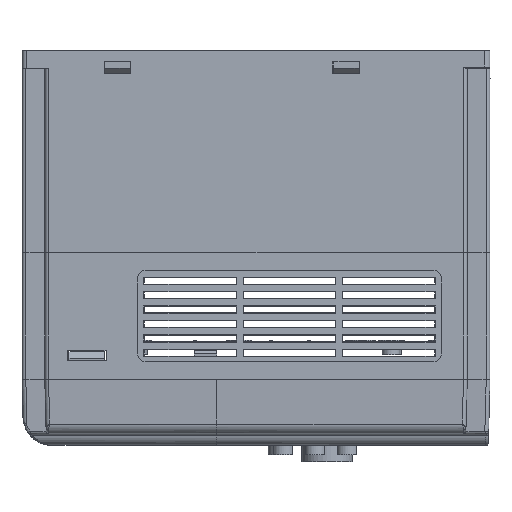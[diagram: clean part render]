
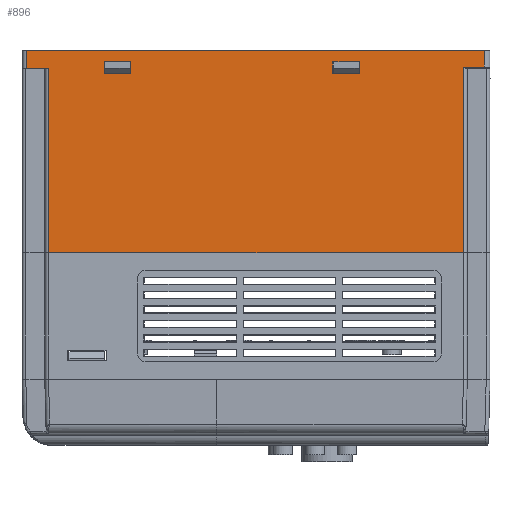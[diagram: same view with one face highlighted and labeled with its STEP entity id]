
A CAD part, left-side view. The second image highlights one B-rep face of the part: STEP entity #896.
In plain terms, the highlighted planar face has unit normal (-1, 0, 0).
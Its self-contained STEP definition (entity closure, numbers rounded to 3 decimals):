
#896=ADVANCED_FACE('',(#13870,#13872,#13874),#13876,.F.);
#13870=FACE_BOUND('',#13871,.T.);
#13871=EDGE_LOOP('',(#48004,#48005,#48006,#48007,#48008,#48009,#48010,#48011));
#13872=FACE_BOUND('',#13873,.T.);
#13873=EDGE_LOOP('',(#48012,#48013,#48014,#48015));
#13874=FACE_BOUND('',#13875,.T.);
#13875=EDGE_LOOP('',(#48016,#48017,#48018,#48019));
#13876=PLANE('',#13877);
#13877=AXIS2_PLACEMENT_3D('',#13878,#13879,#13880);
#13878=CARTESIAN_POINT('',(-58.939,-81.945,180.94));
#13879=DIRECTION('',(1.,0.,0.));
#13880=DIRECTION('',(0.,-1.,0.));
#48004=ORIENTED_EDGE('',*,*,#69001,.T.);
#48005=ORIENTED_EDGE('',*,*,#69000,.T.);
#48006=ORIENTED_EDGE('',*,*,#69002,.F.);
#48007=ORIENTED_EDGE('',*,*,#69003,.T.);
#48008=ORIENTED_EDGE('',*,*,#69004,.F.);
#48009=ORIENTED_EDGE('',*,*,#69005,.F.);
#48010=ORIENTED_EDGE('',*,*,#68920,.F.);
#48011=ORIENTED_EDGE('',*,*,#69006,.T.);
#48012=ORIENTED_EDGE('',*,*,#69007,.T.);
#48013=ORIENTED_EDGE('',*,*,#69008,.T.);
#48014=ORIENTED_EDGE('',*,*,#69009,.T.);
#48015=ORIENTED_EDGE('',*,*,#69010,.T.);
#48016=ORIENTED_EDGE('',*,*,#69011,.T.);
#48017=ORIENTED_EDGE('',*,*,#69012,.T.);
#48018=ORIENTED_EDGE('',*,*,#69013,.T.);
#48019=ORIENTED_EDGE('',*,*,#69014,.T.);
#68920=EDGE_CURVE('',#79562,#79564,#79565,.T.);
#69000=EDGE_CURVE('',#79710,#79712,#79714,.T.);
#69001=EDGE_CURVE('',#79715,#79710,#79716,.T.);
#69002=EDGE_CURVE('',#79717,#79712,#79718,.T.);
#69003=EDGE_CURVE('',#79717,#79719,#79720,.T.);
#69004=EDGE_CURVE('',#79721,#79719,#79722,.T.);
#69005=EDGE_CURVE('',#79564,#79721,#79723,.T.);
#69006=EDGE_CURVE('',#79562,#79715,#79724,.T.);
#69007=EDGE_CURVE('',#79725,#79726,#79727,.T.);
#69008=EDGE_CURVE('',#79726,#79728,#79729,.T.);
#69009=EDGE_CURVE('',#79728,#79730,#79731,.T.);
#69010=EDGE_CURVE('',#79730,#79725,#79732,.T.);
#69011=EDGE_CURVE('',#79733,#79734,#79735,.T.);
#69012=EDGE_CURVE('',#79734,#79736,#79737,.T.);
#69013=EDGE_CURVE('',#79736,#79738,#79739,.T.);
#69014=EDGE_CURVE('',#79738,#79733,#79740,.T.);
#79562=VERTEX_POINT('',#97427);
#79564=VERTEX_POINT('',#97432);
#79565=LINE('',#97433,#97434);
#79710=VERTEX_POINT('',#97791);
#79712=VERTEX_POINT('',#97796);
#79714=LINE('',#97801,#97802);
#79715=VERTEX_POINT('',#97804);
#79716=LINE('',#97805,#97806);
#79717=VERTEX_POINT('',#97808);
#79718=LINE('',#97809,#97810);
#79719=VERTEX_POINT('',#97812);
#79720=LINE('',#97813,#97814);
#79721=VERTEX_POINT('',#97816);
#79722=LINE('',#97817,#97818);
#79723=LINE('',#97820,#97821);
#79724=LINE('',#97823,#97824);
#79725=VERTEX_POINT('',#97826);
#79726=VERTEX_POINT('',#97827);
#79727=LINE('',#97828,#97829);
#79728=VERTEX_POINT('',#97831);
#79729=LINE('',#97832,#97833);
#79730=VERTEX_POINT('',#97835);
#79731=LINE('',#97836,#97837);
#79732=LINE('',#97839,#97840);
#79733=VERTEX_POINT('',#97842);
#79734=VERTEX_POINT('',#97843);
#79735=LINE('',#97844,#97845);
#79736=VERTEX_POINT('',#97847);
#79737=LINE('',#97848,#97849);
#79738=VERTEX_POINT('',#97851);
#79739=LINE('',#97852,#97853);
#79740=LINE('',#97855,#97856);
#97427=CARTESIAN_POINT('',(-58.939,-81.945,35.94));
#97432=CARTESIAN_POINT('',(-58.939,81.945,35.94));
#97433=CARTESIAN_POINT('',(-58.939,-81.945,35.94));
#97434=VECTOR('',#97435,1.);
#97435=DIRECTION('',(0.,1.,0.));
#97791=CARTESIAN_POINT('',(-58.939,-90.245,109.24));
#97796=CARTESIAN_POINT('',(-58.939,-90.245,115.94));
#97801=CARTESIAN_POINT('',(-58.939,-90.245,109.24));
#97802=VECTOR('',#97803,1.);
#97803=DIRECTION('',(0.,0.,1.));
#97804=CARTESIAN_POINT('',(-58.939,-81.945,109.24));
#97805=CARTESIAN_POINT('',(-58.939,-81.945,109.24));
#97806=VECTOR('',#97807,1.);
#97807=DIRECTION('',(0.,-1.,0.));
#97808=CARTESIAN_POINT('',(-58.939,90.745,115.94));
#97809=CARTESIAN_POINT('',(-58.939,90.745,115.94));
#97810=VECTOR('',#97811,1.);
#97811=DIRECTION('',(0.,-1.,0.));
#97812=CARTESIAN_POINT('',(-58.939,90.745,108.74));
#97813=CARTESIAN_POINT('',(-58.939,90.745,115.94));
#97814=VECTOR('',#97815,1.);
#97815=DIRECTION('',(0.,0.,-1.));
#97816=CARTESIAN_POINT('',(-58.939,81.945,108.74));
#97817=CARTESIAN_POINT('',(-58.939,81.945,108.74));
#97818=VECTOR('',#97819,1.);
#97819=DIRECTION('',(0.,1.,0.));
#97820=CARTESIAN_POINT('',(-58.939,81.945,35.94));
#97821=VECTOR('',#97822,1.);
#97822=DIRECTION('',(0.,0.,1.));
#97823=CARTESIAN_POINT('',(-58.939,-81.945,35.94));
#97824=VECTOR('',#97825,1.);
#97825=DIRECTION('',(0.,0.,1.));
#97826=CARTESIAN_POINT('',(-58.939,49.445,106.64));
#97827=CARTESIAN_POINT('',(-58.939,60.045,106.64));
#97828=CARTESIAN_POINT('',(-58.939,49.445,106.64));
#97829=VECTOR('',#97830,1.);
#97830=DIRECTION('',(0.,1.,0.));
#97831=CARTESIAN_POINT('',(-58.939,60.045,111.34));
#97832=CARTESIAN_POINT('',(-58.939,60.045,106.64));
#97833=VECTOR('',#97834,1.);
#97834=DIRECTION('',(0.,0.,1.));
#97835=CARTESIAN_POINT('',(-58.939,49.445,111.34));
#97836=CARTESIAN_POINT('',(-58.939,60.045,111.34));
#97837=VECTOR('',#97838,1.);
#97838=DIRECTION('',(0.,-1.,0.));
#97839=CARTESIAN_POINT('',(-58.939,49.445,111.34));
#97840=VECTOR('',#97841,1.);
#97841=DIRECTION('',(0.,0.,-1.));
#97842=CARTESIAN_POINT('',(-58.939,-40.955,106.64));
#97843=CARTESIAN_POINT('',(-58.939,-30.355,106.64));
#97844=CARTESIAN_POINT('',(-58.939,-40.955,106.64));
#97845=VECTOR('',#97846,1.);
#97846=DIRECTION('',(0.,1.,0.));
#97847=CARTESIAN_POINT('',(-58.939,-30.355,111.34));
#97848=CARTESIAN_POINT('',(-58.939,-30.355,106.64));
#97849=VECTOR('',#97850,1.);
#97850=DIRECTION('',(0.,0.,1.));
#97851=CARTESIAN_POINT('',(-58.939,-40.955,111.34));
#97852=CARTESIAN_POINT('',(-58.939,-30.355,111.34));
#97853=VECTOR('',#97854,1.);
#97854=DIRECTION('',(0.,-1.,0.));
#97855=CARTESIAN_POINT('',(-58.939,-40.955,111.34));
#97856=VECTOR('',#97857,1.);
#97857=DIRECTION('',(0.,0.,-1.));
